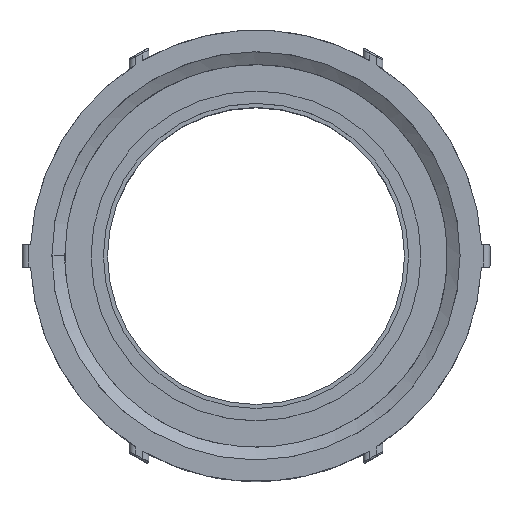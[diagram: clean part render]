
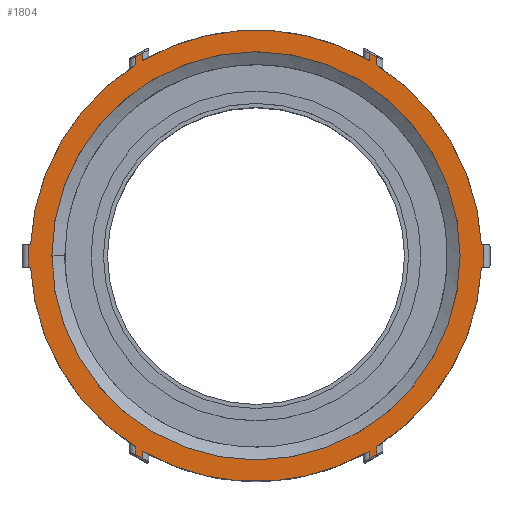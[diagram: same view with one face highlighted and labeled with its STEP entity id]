
A CAD part, top view. The second image highlights one B-rep face of the part: STEP entity #1804.
In plain terms, the highlighted planar face has unit normal (0, 0, 1).
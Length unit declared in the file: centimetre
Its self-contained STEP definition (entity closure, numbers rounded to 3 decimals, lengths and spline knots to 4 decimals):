
#156=VECTOR('',#2108,1.);
#160=VECTOR('',#2118,1.);
#172=VECTOR('',#2146,1.);
#175=VECTOR('',#2155,1.);
#187=VECTOR('',#2208,1.);
#188=VECTOR('',#2210,1.);
#189=VECTOR('',#2213,1.);
#190=VECTOR('',#2214,1.);
#191=VECTOR('',#2215,1.);
#192=VECTOR('',#2216,1.);
#193=VECTOR('',#2217,1.);
#194=VECTOR('',#2218,1.);
#195=VECTOR('',#2219,1.);
#196=VECTOR('',#2220,1.);
#197=VECTOR('',#2221,1.);
#198=VECTOR('',#2222,1.);
#199=VECTOR('',#2223,1.);
#200=VECTOR('',#2224,1.);
#262=LINE('',#2631,#156);
#266=LINE('',#2709,#160);
#278=LINE('',#2930,#172);
#281=LINE('',#2938,#175);
#293=LINE('',#3317,#187);
#294=LINE('',#3354,#188);
#295=LINE('',#3358,#189);
#296=LINE('',#3360,#190);
#297=LINE('',#3362,#191);
#298=LINE('',#3365,#192);
#299=LINE('',#3367,#193);
#300=LINE('',#3369,#194);
#301=LINE('',#3372,#195);
#302=LINE('',#3374,#196);
#303=LINE('',#3376,#197);
#304=LINE('',#3379,#198);
#305=LINE('',#3381,#199);
#306=LINE('',#3383,#200);
#462=PLANE('',#1939);
#495=VERTEX_POINT('',#2630);
#496=VERTEX_POINT('',#2632);
#502=VERTEX_POINT('',#2708);
#518=VERTEX_POINT('',#2929);
#520=VERTEX_POINT('',#2937);
#521=VERTEX_POINT('',#2939);
#539=VERTEX_POINT('',#3318);
#540=VERTEX_POINT('',#3355);
#541=VERTEX_POINT('',#3357);
#542=VERTEX_POINT('',#3359);
#543=VERTEX_POINT('',#3361);
#544=VERTEX_POINT('',#3363);
#545=VERTEX_POINT('',#3364);
#546=VERTEX_POINT('',#3366);
#547=VERTEX_POINT('',#3368);
#548=VERTEX_POINT('',#3370);
#549=VERTEX_POINT('',#3371);
#550=VERTEX_POINT('',#3373);
#551=VERTEX_POINT('',#3375);
#552=VERTEX_POINT('',#3377);
#553=VERTEX_POINT('',#3378);
#554=VERTEX_POINT('',#3380);
#555=VERTEX_POINT('',#3382);
#556=VERTEX_POINT('',#3384);
#557=VERTEX_POINT('',#3386);
#674=CIRCLE('',#1940,5.5626);
#675=CIRCLE('',#1941,5.0292);
#740=EDGE_CURVE('',#495,#496,#262,.T.);
#748=EDGE_CURVE('',#502,#495,#266,.T.);
#769=EDGE_CURVE('',#502,#518,#278,.T.);
#773=EDGE_CURVE('',#520,#521,#281,.T.);
#802=EDGE_CURVE('',#521,#539,#293,.T.);
#804=EDGE_CURVE('',#540,#520,#294,.T.);
#805=EDGE_CURVE('',#540,#541,#674,.T.);
#806=EDGE_CURVE('',#542,#541,#295,.T.);
#807=EDGE_CURVE('',#543,#542,#296,.T.);
#808=EDGE_CURVE('',#544,#543,#297,.T.);
#809=EDGE_CURVE('',#544,#545,#674,.T.);
#810=EDGE_CURVE('',#546,#545,#298,.T.);
#811=EDGE_CURVE('',#547,#546,#299,.T.);
#812=EDGE_CURVE('',#547,#548,#300,.T.);
#813=EDGE_CURVE('',#548,#549,#674,.T.);
#814=EDGE_CURVE('',#550,#549,#301,.T.);
#815=EDGE_CURVE('',#551,#550,#302,.T.);
#816=EDGE_CURVE('',#552,#551,#303,.T.);
#817=EDGE_CURVE('',#552,#553,#674,.T.);
#818=EDGE_CURVE('',#554,#553,#304,.T.);
#819=EDGE_CURVE('',#555,#554,#305,.T.);
#820=EDGE_CURVE('',#556,#555,#306,.T.);
#821=EDGE_CURVE('',#556,#496,#674,.T.);
#822=EDGE_CURVE('',#518,#539,#674,.T.);
#823=EDGE_CURVE('',#557,#557,#675,.T.);
#1093=ORIENTED_EDGE('',*,*,#773,.F.);
#1094=ORIENTED_EDGE('',*,*,#804,.F.);
#1095=ORIENTED_EDGE('',*,*,#805,.T.);
#1096=ORIENTED_EDGE('',*,*,#806,.F.);
#1097=ORIENTED_EDGE('',*,*,#807,.F.);
#1098=ORIENTED_EDGE('',*,*,#808,.F.);
#1099=ORIENTED_EDGE('',*,*,#809,.T.);
#1100=ORIENTED_EDGE('',*,*,#810,.F.);
#1101=ORIENTED_EDGE('',*,*,#811,.F.);
#1102=ORIENTED_EDGE('',*,*,#812,.T.);
#1103=ORIENTED_EDGE('',*,*,#813,.T.);
#1104=ORIENTED_EDGE('',*,*,#814,.F.);
#1105=ORIENTED_EDGE('',*,*,#815,.F.);
#1106=ORIENTED_EDGE('',*,*,#816,.F.);
#1107=ORIENTED_EDGE('',*,*,#817,.T.);
#1108=ORIENTED_EDGE('',*,*,#818,.F.);
#1109=ORIENTED_EDGE('',*,*,#819,.F.);
#1110=ORIENTED_EDGE('',*,*,#820,.F.);
#1111=ORIENTED_EDGE('',*,*,#821,.T.);
#1112=ORIENTED_EDGE('',*,*,#740,.F.);
#1113=ORIENTED_EDGE('',*,*,#748,.F.);
#1114=ORIENTED_EDGE('',*,*,#769,.T.);
#1115=ORIENTED_EDGE('',*,*,#822,.T.);
#1116=ORIENTED_EDGE('',*,*,#802,.F.);
#1117=ORIENTED_EDGE('',*,*,#823,.T.);
#1535=EDGE_LOOP('',(#1093,#1094,#1095,#1096,#1097,#1098,#1099,#1100,#1101,
#1102,#1103,#1104,#1105,#1106,#1107,#1108,#1109,#1110,#1111,#1112,#1113,
#1114,#1115,#1116));
#1536=EDGE_LOOP('',(#1117));
#1671=FACE_BOUND('',#1535,.T.);
#1672=FACE_BOUND('',#1536,.T.);
#1804=ADVANCED_FACE('',(#1671,#1672),#462,.T.);
#1939=AXIS2_PLACEMENT_3D('',#3353,#2209,$);
#1940=AXIS2_PLACEMENT_3D('',#3356,#2211,#2212);
#1941=AXIS2_PLACEMENT_3D('',#3385,#2225,#2226);
#2108=DIRECTION('',(-1.,0.,0.));
#2118=DIRECTION('',(0.,-1.,0.));
#2146=DIRECTION('',(-1.,0.,0.));
#2155=DIRECTION('',(0.866,-0.5,0.));
#2208=DIRECTION('',(0.,-1.,0.));
#2209=DIRECTION('',(0.,0.,1.));
#2210=DIRECTION('',(0.,1.,0.));
#2211=DIRECTION('',(0.,0.,1.));
#2212=DIRECTION('',(0.,5.563,0.));
#2213=DIRECTION('',(0.,-1.,0.));
#2214=DIRECTION('',(0.866,0.5,0.));
#2215=DIRECTION('',(0.,1.,0.));
#2216=DIRECTION('',(1.,0.,0.));
#2217=DIRECTION('',(0.,1.,0.));
#2218=DIRECTION('',(1.,0.,0.));
#2219=DIRECTION('',(0.,1.,0.));
#2220=DIRECTION('',(-0.866,0.5,0.));
#2221=DIRECTION('',(0.,-1.,0.));
#2222=DIRECTION('',(0.,1.,0.));
#2223=DIRECTION('',(-0.866,-0.5,0.));
#2224=DIRECTION('',(0.,-1.,0.));
#2225=DIRECTION('',(0.,0.,-1.));
#2226=DIRECTION('',(5.029,0.,0.));
#2630=CARTESIAN_POINT('',(5.6134,-0.2794,0.));
#2631=CARTESIAN_POINT('',(5.7658,-0.2794,0.));
#2632=CARTESIAN_POINT('',(5.5556,-0.2794,0.));
#2708=CARTESIAN_POINT('',(5.6134,0.2794,0.));
#2709=CARTESIAN_POINT('',(5.6134,1.3907,0.));
#2929=CARTESIAN_POINT('',(5.5556,0.2794,0.));
#2930=CARTESIAN_POINT('',(5.7658,0.2794,0.));
#2937=CARTESIAN_POINT('',(2.7933,5.001,0.));
#2938=CARTESIAN_POINT('',(2.2617,5.308,0.));
#2939=CARTESIAN_POINT('',(2.9725,4.8976,0.));
#3317=CARTESIAN_POINT('',(2.9725,3.68,0.));
#3318=CARTESIAN_POINT('',(2.9725,4.7018,0.));
#3353=CARTESIAN_POINT('',(0.,2.7813,0.));
#3354=CARTESIAN_POINT('',(2.7933,3.8316,0.));
#3355=CARTESIAN_POINT('',(2.7933,4.8104,0.));
#3356=CARTESIAN_POINT('',(0.,0.,0.));
#3357=CARTESIAN_POINT('',(-2.7933,4.8104,0.));
#3358=CARTESIAN_POINT('',(-2.7933,3.8316,0.));
#3359=CARTESIAN_POINT('',(-2.7933,5.001,0.));
#3360=CARTESIAN_POINT('',(-2.2617,5.308,0.));
#3361=CARTESIAN_POINT('',(-2.9725,4.8976,0.));
#3362=CARTESIAN_POINT('',(-2.9725,3.68,0.));
#3363=CARTESIAN_POINT('',(-2.9725,4.7018,0.));
#3364=CARTESIAN_POINT('',(-5.5556,0.2794,0.));
#3365=CARTESIAN_POINT('',(-5.7658,0.2794,0.));
#3366=CARTESIAN_POINT('',(-5.6134,0.2794,0.));
#3367=CARTESIAN_POINT('',(-5.6134,1.3906,0.));
#3368=CARTESIAN_POINT('',(-5.6134,-0.2794,0.));
#3369=CARTESIAN_POINT('',(-5.7658,-0.2794,0.));
#3370=CARTESIAN_POINT('',(-5.5556,-0.2794,0.));
#3371=CARTESIAN_POINT('',(-2.9725,-4.7018,0.));
#3372=CARTESIAN_POINT('',(-2.9725,-0.8987,0.));
#3373=CARTESIAN_POINT('',(-2.9725,-4.8976,0.));
#3374=CARTESIAN_POINT('',(-3.466,-4.6127,0.));
#3375=CARTESIAN_POINT('',(-2.7933,-5.001,0.));
#3376=CARTESIAN_POINT('',(-2.7933,-1.0503,0.));
#3377=CARTESIAN_POINT('',(-2.7933,-4.8104,0.));
#3378=CARTESIAN_POINT('',(2.7933,-4.8104,0.));
#3379=CARTESIAN_POINT('',(2.7933,-1.0503,0.));
#3380=CARTESIAN_POINT('',(2.7933,-5.001,0.));
#3381=CARTESIAN_POINT('',(3.466,-4.6127,0.));
#3382=CARTESIAN_POINT('',(2.9725,-4.8976,0.));
#3383=CARTESIAN_POINT('',(2.9725,-0.8987,0.));
#3384=CARTESIAN_POINT('',(2.9725,-4.7018,0.));
#3385=CARTESIAN_POINT('',(0.,0.,0.));
#3386=CARTESIAN_POINT('',(5.0292,0.,0.));
